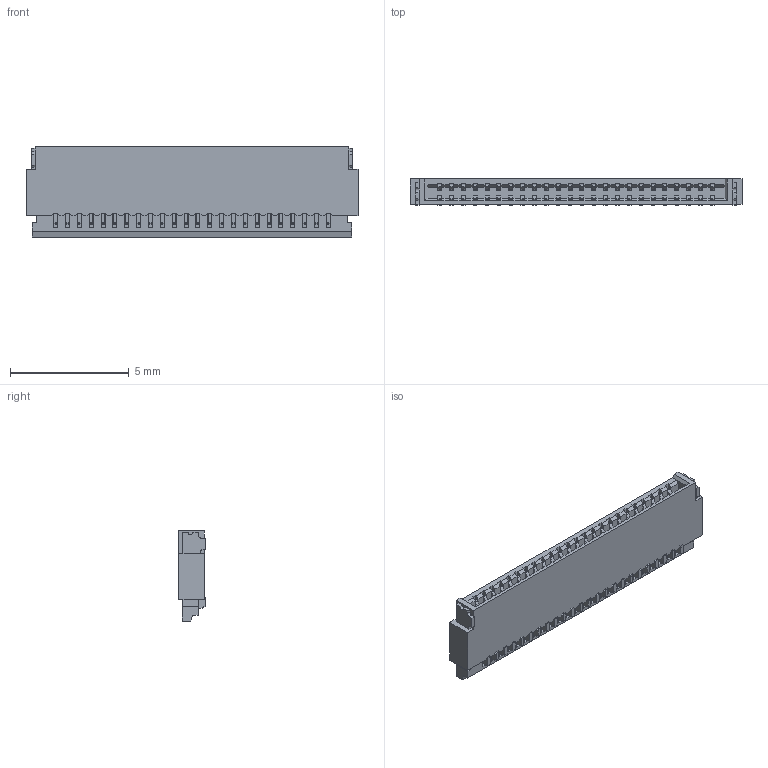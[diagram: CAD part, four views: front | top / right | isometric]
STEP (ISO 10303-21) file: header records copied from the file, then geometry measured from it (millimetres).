
FILE_DESCRIPTION (( 'STEP AP214' ), '1' );
FILE_NAME ('FFC2B28-24-G.STEP', '2024-02-02T16:21:35', ( '' ), ( '' ), 'SwSTEP 2.0', 'SolidWorks 2021', '' );
FILE_SCHEMA (( 'AUTOMOTIVE_DESIGN' ));
Length unit declared in the file: millimetre
Products named in the file (1): FFC2B28-24-G
Bounding box: 14 x 1.1 x 3.8 mm (x, y, z)
Volume: 36.8 mm3; surface area: 375.4 mm2
Topology: 28 solids, 28 shells, 1678 faces, 5102 edges, 3384 vertices
Faces by surface type: plane 1238, cylinder 440
Entity records: 57179 total; most frequent: ORIENTED_EDGE 10204, CARTESIAN_POINT 10165, DIRECTION 9340, EDGE_CURVE 5102, LINE 4222, VECTOR 4222, VERTEX_POINT 3384, AXIS2_PLACEMENT_3D 2559
